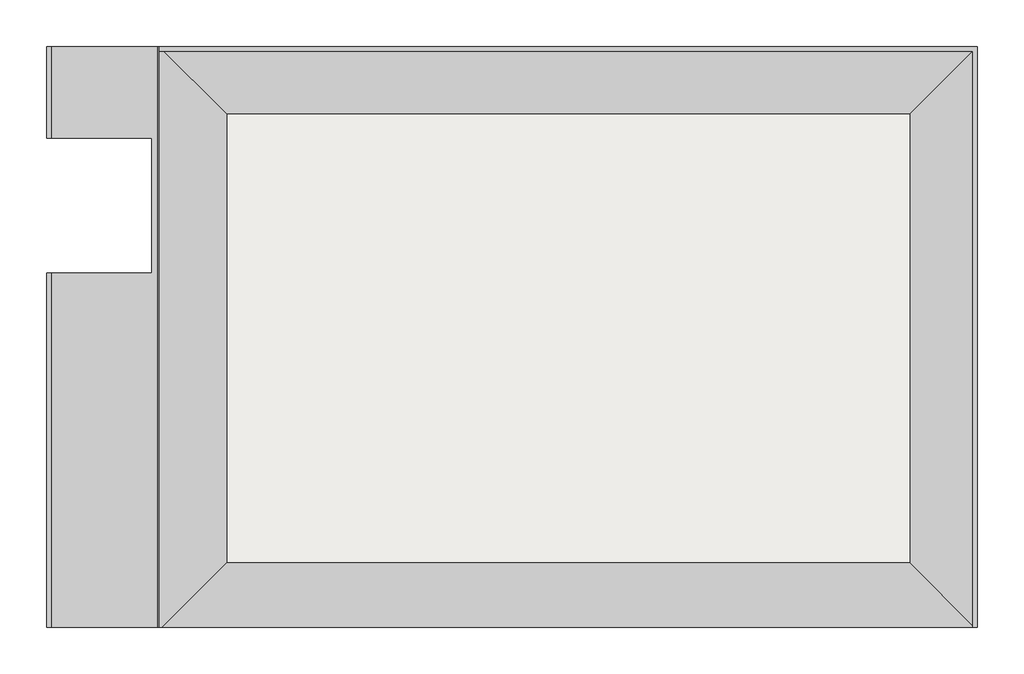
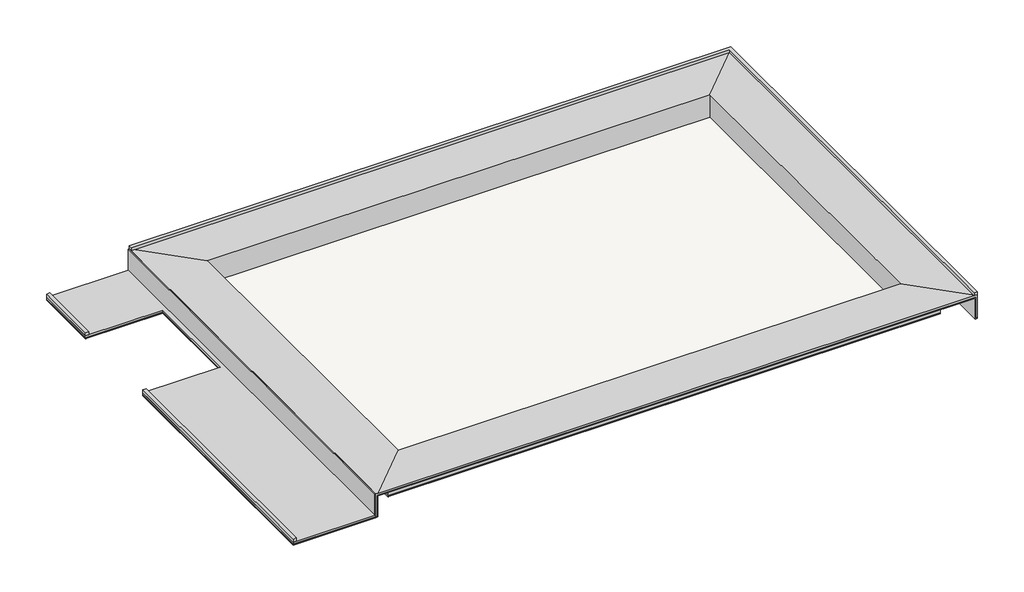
# One storey, incomplete: 4 proxies, 2 slabs.
"""IFC4 building model written with IfcOpenShell, lengths in millimetres."""

from ifc_helpers import new_model, si_unit, frame, origin, place, context, project, spatial, polyline, outline, extrude, faceted_brep, transform, mapped, element, save
from components import generic_models_5875759e, generic_models_62f47bfb

model = new_model("IFC4")

# Units and contexts
model_context = context("Model", 3, world=origin())
ifc_project = project(units=[si_unit("LENGTHUNIT", "METRE", prefix="MILLI")], contexts=[model_context])

# Site, building, storey
site = spatial("IfcSite", under=ifc_project)
building = spatial("IfcBuilding", under=site)
storey = spatial("IfcBuildingStorey", under=building, Name="20F(A)+2.8", Elevation=2800.0)

# Proxies
placement = place(None, origin())
element("IfcBuildingElementProxy", 1, Name="天花跌级（细木工板）", ObjectType="天花跌级（细木工板）", at=placement, inside=storey, context=model_context, shape_type="Brep", body=[
    faceted_brep([(12101.0015272, 1200.9923684, 3011.0), (12101.0015272, 1200.9923684, 2811.0), (12101.0015272, -2659.8975825, 2811.0), (12101.0015272, -2659.8975825, 3011.0), (12110.0015272, 1209.9923684, 2811.0), (12110.0015272, -2659.8975825, 2811.0), (12110.0015272, 1209.9923684, 3029.0), (12110.0015272, -2659.8975825, 3029.0), (11661.0015272, 760.9923684, 3029.0), (11661.0015272, -2231.00763, 3029.0), (12089.8914797, -2659.8975825, 3029.0), (11661.0015272, -2231.00763, 2811.0), (11661.0015272, 760.9923684, 2811.0), (11879.0015272, -2449.00763, 2811.0), (11879.0015272, 978.9923684, 2811.0), (11879.0015272, -2449.00763, 2860.0), (11879.0015272, 978.9923684, 2860.0), (11861.0015272, -2431.00763, 2860.0), (11861.0015272, 960.9923684, 2860.0), (11861.0015272, -2431.00763, 2829.0), (11861.0015272, 960.9923684, 2829.0), (11679.0015272, -2249.00763, 2829.0), (11679.0015272, 778.9923684, 2829.0), (11679.0015272, -2249.00763, 3011.0), (11679.0015272, 778.9923684, 3011.0), (12089.8914797, -2659.8975825, 3011.0), (7109.0000014, -2231.00763, 3029.0), (6680.1100489, -2659.8975825, 3029.0), (7109.0000014, -2231.00763, 2811.0), (6891.0000014, -2449.00763, 2811.0), (6891.0000014, -2449.00763, 2860.0), (6909.0000014, -2431.00763, 2860.0), (6909.0000014, -2431.00763, 2829.0), (7091.0000014, -2249.00763, 2829.0), (7091.0000014, -2249.00763, 3011.0), (6680.1100489, -2659.8975825, 3011.0), (6669.0000014, 1200.9923684, 3011.0), (6669.0000014, 1200.9923684, 2811.0), (6660.0000014, 1209.9923684, 2811.0), (6660.0000014, 1209.9923684, 3029.0), (7109.0000014, 760.9923684, 3029.0), (7109.0000014, 760.9923684, 2811.0), (6891.0000014, 978.9923684, 2811.0), (6891.0000014, 978.9923684, 2860.0), (6909.0000014, 960.9923684, 2860.0), (6909.0000014, 960.9923684, 2829.0), (7091.0000014, 778.9923684, 2829.0), (7091.0000014, 778.9923684, 3011.0), (6669.0000014, -2659.8975825, 3011.0), (6669.0000014, -2659.8975825, 2811.0), (6660.0000014, -2659.8975825, 2811.0), (6660.0000014, -2659.8975825, 3029.0)], [[[0, 1, 2, 3]], [[1, 4, 5, 2]], [[4, 6, 7, 5]], [[8, 9, 10, 7, 6]], [[11, 9, 8, 12]], [[13, 11, 12, 14]], [[15, 13, 14, 16]], [[17, 15, 16, 18]], [[19, 17, 18, 20]], [[21, 19, 20, 22]], [[23, 21, 22, 24]], [[23, 24, 0, 3, 25]], [[9, 26, 27, 10]], [[9, 11, 28, 26]], [[11, 13, 29, 28]], [[13, 15, 30, 29]], [[15, 17, 31, 30]], [[17, 19, 32, 31]], [[19, 21, 33, 32]], [[21, 23, 34, 33]], [[34, 23, 25, 35]], [[1, 0, 36, 37]], [[4, 1, 37, 38]], [[6, 4, 38, 39]], [[8, 6, 39, 40]], [[12, 8, 40, 41]], [[14, 12, 41, 42]], [[16, 14, 42, 43]], [[18, 16, 43, 44]], [[20, 18, 44, 45]], [[22, 20, 45, 46]], [[24, 22, 46, 47]], [[0, 24, 47, 36]], [[37, 36, 48, 49]], [[38, 37, 49, 50]], [[39, 38, 50, 51]], [[40, 39, 51, 27, 26]], [[26, 28, 41, 40]], [[28, 29, 42, 41]], [[29, 30, 43, 42]], [[30, 31, 44, 43]], [[31, 32, 45, 44]], [[32, 33, 46, 45]], [[33, 34, 47, 46]], [[36, 47, 34, 35, 48]], [[3, 2, 5, 7, 10, 27, 51, 50, 49, 48, 35, 25]]]),
])
element("IfcBuildingElementProxy", 2, Name="天花跌级（石膏板）", ObjectType="天花跌级（石膏板）", at=placement, inside=storey, context=model_context, shape_type="Brep", body=[
    faceted_brep([(12092.0015272, 1191.9923684, 3002.0), (12092.0015272, 1191.9923684, 2802.0), (12092.0015272, -2659.8975825, 2802.0), (12092.0015272, -2659.8975825, 3002.0), (12110.0015272, 1209.9923684, 2802.0), (12110.0015272, -2659.8975825, 2802.0), (12110.0015272, 1209.9923684, 2811.0), (12110.0015272, -2659.8975825, 2811.0), (12101.0015272, 1200.9923684, 2811.0), (12101.0015272, -2659.8975825, 2811.0), (12101.0015272, 1200.9923684, 3011.0), (12101.0015272, -2659.8975825, 3011.0), (11679.0015272, 778.9923684, 3011.0), (11679.0015272, -2249.00763, 3011.0), (12089.8914797, -2659.8975825, 3011.0), (11679.0015272, -2249.00763, 2829.0), (11679.0015272, 778.9923684, 2829.0), (11688.0015272, -2258.00763, 2829.0), (11688.0015272, 787.9923684, 2829.0), (11688.0015272, -2258.00763, 3002.0), (11688.0015272, 787.9923684, 3002.0), (12089.8914797, -2659.8975825, 3002.0), (7091.0000014, -2249.00763, 3011.0), (6680.1100489, -2659.8975825, 3011.0), (7091.0000014, -2249.00763, 2829.0), (7082.0000014, -2258.00763, 2829.0), (7082.0000014, -2258.00763, 3002.0), (6680.1100489, -2659.8975825, 3002.0), (6678.0000014, 1191.9923684, 3002.0), (6678.0000014, 1191.9923684, 2802.0), (6660.0000014, 1209.9923684, 2802.0), (6660.0000014, 1209.9923684, 2811.0), (6669.0000014, 1200.9923684, 2811.0), (6669.0000014, 1200.9923684, 3011.0), (7091.0000014, 778.9923684, 3011.0), (7091.0000014, 778.9923684, 2829.0), (7082.0000014, 787.9923684, 2829.0), (7082.0000014, 787.9923684, 3002.0), (6678.0000014, -2659.8975825, 3002.0), (6678.0000014, -2659.8975825, 2802.0), (6660.0000014, -2659.8975825, 2802.0), (6660.0000014, -2659.8975825, 2811.0), (6669.0000014, -2659.8975825, 2811.0), (6669.0000014, -2659.8975825, 3011.0)], [[[0, 1, 2, 3]], [[1, 4, 5, 2]], [[4, 6, 7, 5]], [[6, 8, 9, 7]], [[8, 10, 11, 9]], [[12, 13, 14, 11, 10]], [[15, 13, 12, 16]], [[17, 15, 16, 18]], [[19, 17, 18, 20]], [[19, 20, 0, 3, 21]], [[13, 22, 23, 14]], [[13, 15, 24, 22]], [[15, 17, 25, 24]], [[17, 19, 26, 25]], [[26, 19, 21, 27]], [[1, 0, 28, 29]], [[4, 1, 29, 30]], [[6, 4, 30, 31]], [[8, 6, 31, 32]], [[10, 8, 32, 33]], [[12, 10, 33, 34]], [[16, 12, 34, 35]], [[18, 16, 35, 36]], [[20, 18, 36, 37]], [[0, 20, 37, 28]], [[29, 28, 38, 39]], [[30, 29, 39, 40]], [[31, 30, 40, 41]], [[32, 31, 41, 42]], [[33, 32, 42, 43]], [[34, 33, 43, 23, 22]], [[22, 24, 35, 34]], [[24, 25, 36, 35]], [[25, 26, 37, 36]], [[28, 37, 26, 27, 38]], [[3, 2, 5, 7, 9, 11, 14, 23, 43, 42, 41, 40, 39, 38, 27, 21]]]),
    faceted_brep([(11879.0015272, -2449.00763, 2811.0), (11879.0015272, -2449.00763, 2860.0), (11879.0015272, 978.9923684, 2860.0), (11879.0015272, 978.9923684, 2811.0), (11888.0015272, -2458.00763, 2811.0), (11888.0015272, 987.9923684, 2811.0), (11888.0015272, -2458.00763, 2860.0), (11888.0015272, 987.9923684, 2860.0), (6891.0000014, -2449.00763, 2811.0), (6891.0000014, -2449.00763, 2860.0), (6882.0000014, -2458.00763, 2811.0), (6882.0000014, -2458.00763, 2860.0), (6891.0000014, 978.9923684, 2860.0), (6891.0000014, 978.9923684, 2811.0), (6882.0000014, 987.9923684, 2811.0), (6882.0000014, 987.9923684, 2860.0)], [[[0, 1, 2, 3]], [[4, 0, 3, 5]], [[6, 4, 5, 7]], [[1, 6, 7, 2]], [[1, 0, 8, 9]], [[0, 4, 10, 8]], [[4, 6, 11, 10]], [[6, 1, 9, 11]], [[3, 2, 12, 13]], [[5, 3, 13, 14]], [[7, 5, 14, 15]], [[2, 7, 15, 12]], [[9, 8, 13, 12]], [[8, 10, 14, 13]], [[10, 11, 15, 14]], [[11, 9, 12, 15]]]),
])
generic_models_shape = generic_models_5875759e(model_context)
element("IfcBuildingElementProxy", 3, Name="木龙骨 : 木龙骨", ObjectType="木龙骨 : 木龙骨", at=placement, inside=storey, context=model_context, shape_type="MappedRepresentation", body=[
    mapped(generic_models_shape, transform((0.0, 0.0, 0.0), x_axis=(1.0, 0.0, 0.0), y_axis=(0.0, 1.0, 0.0), z_axis=(0.0, 0.0, 1.0))),
])
generic_models_2_shape = generic_models_62f47bfb(model_context)
element("IfcBuildingElementProxy", 4, Name="天花板加长-经理室2 : 天花板加长-经理室2", ObjectType="天花板加长-经理室2 : 天花板加长-经理室2", at=placement, inside=storey, context=model_context, shape_type="MappedRepresentation", body=[
    mapped(generic_models_2_shape, transform((0.0, 0.0, 0.0), x_axis=(1.0, 0.0, 0.0), y_axis=(0.0, 1.0, 0.0), z_axis=(0.0, 0.0, 1.0))),
])

# Slabs
element("IfcSlab", 5, ObjectType="天花板-石膏板-9.5mm", at=placement, inside=storey, context=model_context, shape_type="SweptSolid", body=[
    extrude(outline(polyline([(11888.0015272, 987.9923684), (11888.0015272, -2458.00763), (6882.0000014, -2458.00763), (6882.0000014, 987.9923684), (11888.0015272, 987.9923684)])), frame((0.0, 0.0, 2802.0), z_axis=(0.0, 0.0, 1.0), x_axis=(1.0, 0.0, 0.0)), (0.0, 0.0, 1.0), 9.0),
])
element("IfcSlab", 6, ObjectType="天花板-乳胶漆-2mm", at=placement, inside=storey, context=model_context, shape_type="SweptSolid", body=[
    extrude(outline(polyline([(11888.0015272, 987.9923684), (11888.0015272, -2458.00763), (6882.0000014, -2458.00763), (6882.0000014, 987.9923684), (11888.0015272, 987.9923684)])), frame((0.0, 0.0, 2800.0), z_axis=(0.0, 0.0, 1.0), x_axis=(1.0, 0.0, 0.0)), (0.0, 0.0, 1.0), 2.0),
])

save(model, "model.ifc")
